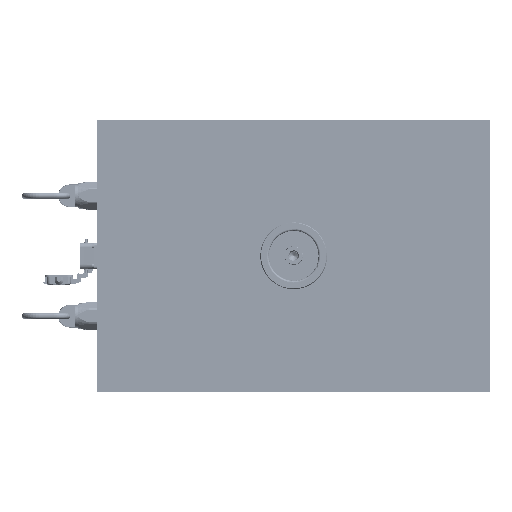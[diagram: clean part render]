
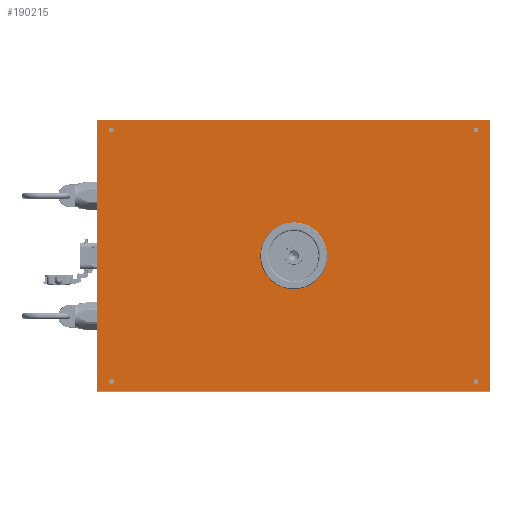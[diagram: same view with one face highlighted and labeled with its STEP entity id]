
A CAD part, top view. The second image highlights one B-rep face of the part: STEP entity #190215.
In plain terms, the highlighted planar face has unit normal (0, 0, 1).
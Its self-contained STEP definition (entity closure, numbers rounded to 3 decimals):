
#189802=CARTESIAN_POINT('Vertex',(323.,223.,8.)) ;
#189809=CARTESIAN_POINT('Vertex',(-323.,223.,8.)) ;
#189812=CARTESIAN_POINT('Line Origine',(0.,223.,8.)) ;
#189834=CARTESIAN_POINT('Vertex',(-323.,-223.,8.)) ;
#189837=CARTESIAN_POINT('Line Origine',(-323.,0.,8.)) ;
#189859=CARTESIAN_POINT('Vertex',(323.,-223.,8.)) ;
#189862=CARTESIAN_POINT('Line Origine',(0.,-223.,8.)) ;
#189880=CARTESIAN_POINT('Line Origine',(323.,0.,8.)) ;
#189902=CARTESIAN_POINT('Vertex',(45.25,0.,8.)) ;
#189905=CARTESIAN_POINT('Axis2P3D Location',(0.,0.,8.)) ;
#189909=CARTESIAN_POINT('Vertex',(-45.25,0.,8.)) ;
#189924=CARTESIAN_POINT('Axis2P3D Location',(0.,0.,8.)) ;
#189941=CARTESIAN_POINT('Axis2P3D Location',(-300.,207.,8.)) ;
#189945=CARTESIAN_POINT('Vertex',(-296.179,207.,8.)) ;
#189947=CARTESIAN_POINT('Vertex',(-303.821,207.,8.)) ;
#189976=CARTESIAN_POINT('Axis2P3D Location',(-300.,207.,8.)) ;
#189998=CARTESIAN_POINT('Axis2P3D Location',(300.,207.,8.)) ;
#190002=CARTESIAN_POINT('Vertex',(303.821,207.,8.)) ;
#190004=CARTESIAN_POINT('Vertex',(296.179,207.,8.)) ;
#190033=CARTESIAN_POINT('Axis2P3D Location',(300.,207.,8.)) ;
#190055=CARTESIAN_POINT('Axis2P3D Location',(300.,-207.,8.)) ;
#190059=CARTESIAN_POINT('Vertex',(303.821,-207.,8.)) ;
#190061=CARTESIAN_POINT('Vertex',(296.179,-207.,8.)) ;
#190090=CARTESIAN_POINT('Axis2P3D Location',(300.,-207.,8.)) ;
#190112=CARTESIAN_POINT('Axis2P3D Location',(-300.,-207.,8.)) ;
#190116=CARTESIAN_POINT('Vertex',(-296.179,-207.,8.)) ;
#190118=CARTESIAN_POINT('Vertex',(-303.821,-207.,8.)) ;
#190143=CARTESIAN_POINT('Axis2P3D Location',(0.,0.,8.)) ;
#190154=CARTESIAN_POINT('Axis2P3D Location',(-49.,0.,8.)) ;
#190158=CARTESIAN_POINT('Vertex',(-51.413,1.318,8.)) ;
#190160=CARTESIAN_POINT('Vertex',(-46.587,-1.318,8.)) ;
#190163=CARTESIAN_POINT('Axis2P3D Location',(-49.,0.,8.)) ;
#190172=CARTESIAN_POINT('Axis2P3D Location',(49.,0.,8.)) ;
#190176=CARTESIAN_POINT('Vertex',(46.587,1.318,8.)) ;
#190178=CARTESIAN_POINT('Vertex',(51.413,-1.318,8.)) ;
#190181=CARTESIAN_POINT('Axis2P3D Location',(49.,0.,8.)) ;
#190190=CARTESIAN_POINT('Axis2P3D Location',(-300.,-207.,8.)) ;
#189814=VECTOR('Line Direction',#189813,1.) ;
#189839=VECTOR('Line Direction',#189838,1.) ;
#189864=VECTOR('Line Direction',#189863,1.) ;
#189882=VECTOR('Line Direction',#189881,1.) ;
#189813=DIRECTION('Vector Direction',(-1.,0.,0.)) ;
#189838=DIRECTION('Vector Direction',(0.,-1.,0.)) ;
#189863=DIRECTION('Vector Direction',(1.,0.,0.)) ;
#189881=DIRECTION('Vector Direction',(0.,1.,0.)) ;
#189906=DIRECTION('Axis2P3D Direction',(0.,0.,1.)) ;
#189925=DIRECTION('Axis2P3D Direction',(0.,0.,1.)) ;
#189942=DIRECTION('Axis2P3D Direction',(0.,0.,1.)) ;
#189977=DIRECTION('Axis2P3D Direction',(0.,0.,1.)) ;
#189999=DIRECTION('Axis2P3D Direction',(0.,0.,1.)) ;
#190034=DIRECTION('Axis2P3D Direction',(0.,0.,1.)) ;
#190056=DIRECTION('Axis2P3D Direction',(0.,0.,1.)) ;
#190091=DIRECTION('Axis2P3D Direction',(0.,0.,1.)) ;
#190113=DIRECTION('Axis2P3D Direction',(0.,0.,1.)) ;
#190144=DIRECTION('Axis2P3D Direction',(0.,0.,1.)) ;
#190145=DIRECTION('Axis2P3D XDirection',(1.,0.,0.)) ;
#190155=DIRECTION('Axis2P3D Direction',(0.,0.,1.)) ;
#190164=DIRECTION('Axis2P3D Direction',(0.,0.,1.)) ;
#190173=DIRECTION('Axis2P3D Direction',(0.,0.,1.)) ;
#190182=DIRECTION('Axis2P3D Direction',(0.,0.,1.)) ;
#190191=DIRECTION('Axis2P3D Direction',(0.,0.,1.)) ;
#189907=AXIS2_PLACEMENT_3D('Circle Axis2P3D',#189905,#189906,$) ;
#189926=AXIS2_PLACEMENT_3D('Circle Axis2P3D',#189924,#189925,$) ;
#189943=AXIS2_PLACEMENT_3D('Circle Axis2P3D',#189941,#189942,$) ;
#189978=AXIS2_PLACEMENT_3D('Circle Axis2P3D',#189976,#189977,$) ;
#190000=AXIS2_PLACEMENT_3D('Circle Axis2P3D',#189998,#189999,$) ;
#190035=AXIS2_PLACEMENT_3D('Circle Axis2P3D',#190033,#190034,$) ;
#190057=AXIS2_PLACEMENT_3D('Circle Axis2P3D',#190055,#190056,$) ;
#190092=AXIS2_PLACEMENT_3D('Circle Axis2P3D',#190090,#190091,$) ;
#190114=AXIS2_PLACEMENT_3D('Circle Axis2P3D',#190112,#190113,$) ;
#190146=AXIS2_PLACEMENT_3D('Plane Axis2P3D',#190143,#190144,#190145) ;
#190156=AXIS2_PLACEMENT_3D('Circle Axis2P3D',#190154,#190155,$) ;
#190165=AXIS2_PLACEMENT_3D('Circle Axis2P3D',#190163,#190164,$) ;
#190174=AXIS2_PLACEMENT_3D('Circle Axis2P3D',#190172,#190173,$) ;
#190183=AXIS2_PLACEMENT_3D('Circle Axis2P3D',#190181,#190182,$) ;
#190192=AXIS2_PLACEMENT_3D('Circle Axis2P3D',#190190,#190191,$) ;
#189815=LINE('Line',#189812,#189814) ;
#189840=LINE('Line',#189837,#189839) ;
#189865=LINE('Line',#189862,#189864) ;
#189883=LINE('Line',#189880,#189882) ;
#189908=CIRCLE('generated circle',#189907,45.25) ;
#189927=CIRCLE('generated circle',#189926,45.25) ;
#189944=CIRCLE('generated circle',#189943,3.821) ;
#189979=CIRCLE('generated circle',#189978,3.821) ;
#190001=CIRCLE('generated circle',#190000,3.821) ;
#190036=CIRCLE('generated circle',#190035,3.821) ;
#190058=CIRCLE('generated circle',#190057,3.821) ;
#190093=CIRCLE('generated circle',#190092,3.821) ;
#190115=CIRCLE('generated circle',#190114,3.821) ;
#190157=CIRCLE('generated circle',#190156,2.75) ;
#190166=CIRCLE('generated circle',#190165,2.75) ;
#190175=CIRCLE('generated circle',#190174,2.75) ;
#190184=CIRCLE('generated circle',#190183,2.75) ;
#190193=CIRCLE('generated circle',#190192,3.821) ;
#190147=PLANE('',#190146) ;
#190171=FACE_BOUND('',#190168,.T.) ;
#190189=FACE_BOUND('',#190186,.T.) ;
#190198=FACE_BOUND('',#190195,.T.) ;
#190202=FACE_BOUND('',#190199,.T.) ;
#190206=FACE_BOUND('',#190203,.T.) ;
#190210=FACE_BOUND('',#190207,.T.) ;
#190214=FACE_BOUND('',#190211,.T.) ;
#189816=EDGE_CURVE('',#189803,#189810,#189815,.T.) ;
#189841=EDGE_CURVE('',#189810,#189835,#189840,.T.) ;
#189866=EDGE_CURVE('',#189835,#189860,#189865,.T.) ;
#189884=EDGE_CURVE('',#189860,#189803,#189883,.T.) ;
#189911=EDGE_CURVE('',#189903,#189910,#189908,.T.) ;
#189928=EDGE_CURVE('',#189910,#189903,#189927,.T.) ;
#189949=EDGE_CURVE('',#189946,#189948,#189944,.T.) ;
#189980=EDGE_CURVE('',#189948,#189946,#189979,.T.) ;
#190006=EDGE_CURVE('',#190003,#190005,#190001,.T.) ;
#190037=EDGE_CURVE('',#190005,#190003,#190036,.T.) ;
#190063=EDGE_CURVE('',#190060,#190062,#190058,.T.) ;
#190094=EDGE_CURVE('',#190062,#190060,#190093,.T.) ;
#190120=EDGE_CURVE('',#190117,#190119,#190115,.T.) ;
#190162=EDGE_CURVE('',#190159,#190161,#190157,.T.) ;
#190167=EDGE_CURVE('',#190161,#190159,#190166,.T.) ;
#190180=EDGE_CURVE('',#190177,#190179,#190175,.T.) ;
#190185=EDGE_CURVE('',#190179,#190177,#190184,.T.) ;
#190194=EDGE_CURVE('',#190119,#190117,#190193,.T.) ;
#190149=ORIENTED_EDGE('',*,*,#189884,.T.) ;
#190150=ORIENTED_EDGE('',*,*,#189816,.T.) ;
#190151=ORIENTED_EDGE('',*,*,#189841,.T.) ;
#190152=ORIENTED_EDGE('',*,*,#189866,.T.) ;
#190169=ORIENTED_EDGE('',*,*,#190162,.F.) ;
#190170=ORIENTED_EDGE('',*,*,#190167,.F.) ;
#190187=ORIENTED_EDGE('',*,*,#190180,.F.) ;
#190188=ORIENTED_EDGE('',*,*,#190185,.F.) ;
#190196=ORIENTED_EDGE('',*,*,#190194,.F.) ;
#190197=ORIENTED_EDGE('',*,*,#190120,.F.) ;
#190200=ORIENTED_EDGE('',*,*,#190094,.F.) ;
#190201=ORIENTED_EDGE('',*,*,#190063,.F.) ;
#190204=ORIENTED_EDGE('',*,*,#190037,.F.) ;
#190205=ORIENTED_EDGE('',*,*,#190006,.F.) ;
#190208=ORIENTED_EDGE('',*,*,#189980,.F.) ;
#190209=ORIENTED_EDGE('',*,*,#189949,.F.) ;
#190212=ORIENTED_EDGE('',*,*,#189911,.F.) ;
#190213=ORIENTED_EDGE('',*,*,#189928,.F.) ;
#190148=EDGE_LOOP('',(#190149,#190150,#190151,#190152)) ;
#190168=EDGE_LOOP('',(#190169,#190170)) ;
#190186=EDGE_LOOP('',(#190187,#190188)) ;
#190195=EDGE_LOOP('',(#190196,#190197)) ;
#190199=EDGE_LOOP('',(#190200,#190201)) ;
#190203=EDGE_LOOP('',(#190204,#190205)) ;
#190207=EDGE_LOOP('',(#190208,#190209)) ;
#190211=EDGE_LOOP('',(#190212,#190213)) ;
#189803=VERTEX_POINT('',#189802) ;
#189810=VERTEX_POINT('',#189809) ;
#189835=VERTEX_POINT('',#189834) ;
#189860=VERTEX_POINT('',#189859) ;
#189903=VERTEX_POINT('',#189902) ;
#189910=VERTEX_POINT('',#189909) ;
#189946=VERTEX_POINT('',#189945) ;
#189948=VERTEX_POINT('',#189947) ;
#190003=VERTEX_POINT('',#190002) ;
#190005=VERTEX_POINT('',#190004) ;
#190060=VERTEX_POINT('',#190059) ;
#190062=VERTEX_POINT('',#190061) ;
#190117=VERTEX_POINT('',#190116) ;
#190119=VERTEX_POINT('',#190118) ;
#190159=VERTEX_POINT('',#190158) ;
#190161=VERTEX_POINT('',#190160) ;
#190177=VERTEX_POINT('',#190176) ;
#190179=VERTEX_POINT('',#190178) ;
#190215=ADVANCED_FACE('E 1425_446 646_8',(#190153,#190171,#190189,#190198,#190202,#190206,#190210,#190214),#190147,.T.) ;
#190153=FACE_OUTER_BOUND('',#190148,.T.) ;
